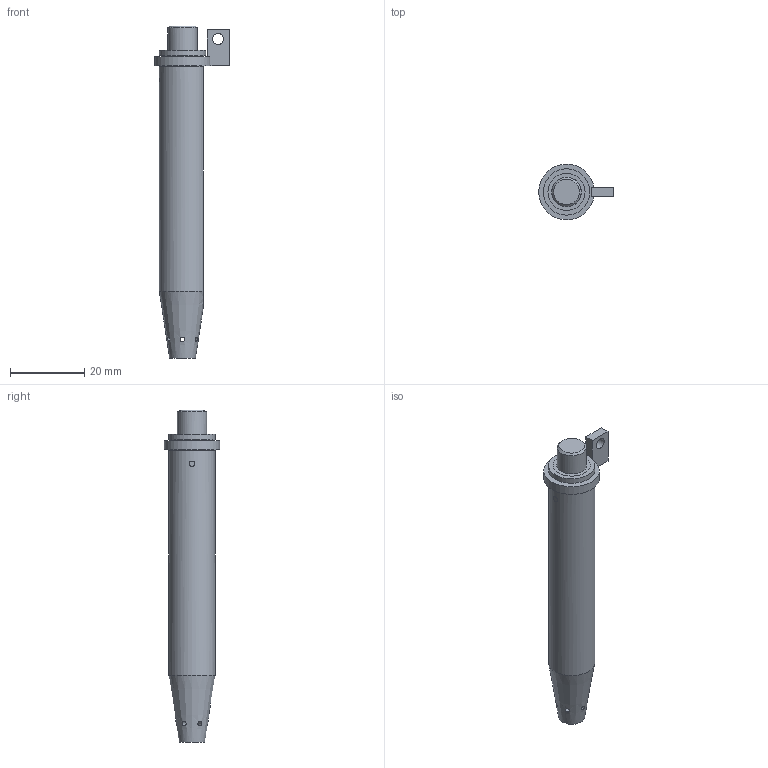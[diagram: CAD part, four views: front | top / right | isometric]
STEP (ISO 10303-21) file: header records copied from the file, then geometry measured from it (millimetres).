
FILE_DESCRIPTION(/* description */ (''),/* implementation_level */ '2;1');
FILE_NAME(/* name */ 'pendant_assembly.step',/* time_stamp */ '2026-10-16T18:09:22+02:00',/* author */ (''),/* organization */ (''),/* preprocessor_version */ 'ST-DEVELOPER v20.2',/* originating_system */ 'Autodesk Translation Framework v15.15.0.0',/* authorisation */ '');
FILE_SCHEMA (('AUTOMOTIVE_DESIGN { 1 0 10303 214 3 1 1 }'));
Length unit declared in the file: millimetre
Products named in the file (7): 2026-10-16-18-08-27-182; 2026-10-16-18-08-27-372; 2026-10-16-18-08-27-570; 2026-10-16-18-08-27-606; 2026-10-16-18-08-27-752; 2026-10-16-18-08-27-795; 2026-10-16-18-08-29-178
Assembly tree (6 placements, depth 2):
  2026-10-16-18-08-27-182
    2026-10-16-18-08-27-372
    2026-10-16-18-08-27-570
    2026-10-16-18-08-27-606
    2026-10-16-18-08-27-752
    2026-10-16-18-08-27-795
    2026-10-16-18-08-29-178
Bounding box: 20.1 x 15 x 89.5 mm (x, y, z)
Volume: 8824.1 mm3; surface area: 7675.6 mm2
Topology: 6 solids, 6 shells, 60 faces, 155 edges, 102 vertices
Faces by surface type: plane 35, cylinder 21, cone 3, bspline 1
Full cylindrical faces by diameter (mm): 1.2 x6, 1.5 x2, 2 x2, 3 x1, 7.9 x1, 8 x1, 10 x2, 12.5 x1
Entity records: 3974 total; most frequent: CARTESIAN_POINT 2279, DIRECTION 319, ORIENTED_EDGE 310, EDGE_CURVE 155, AXIS2_PLACEMENT_3D 123, VERTEX_POINT 102, EDGE_LOOP 75, LINE 73
